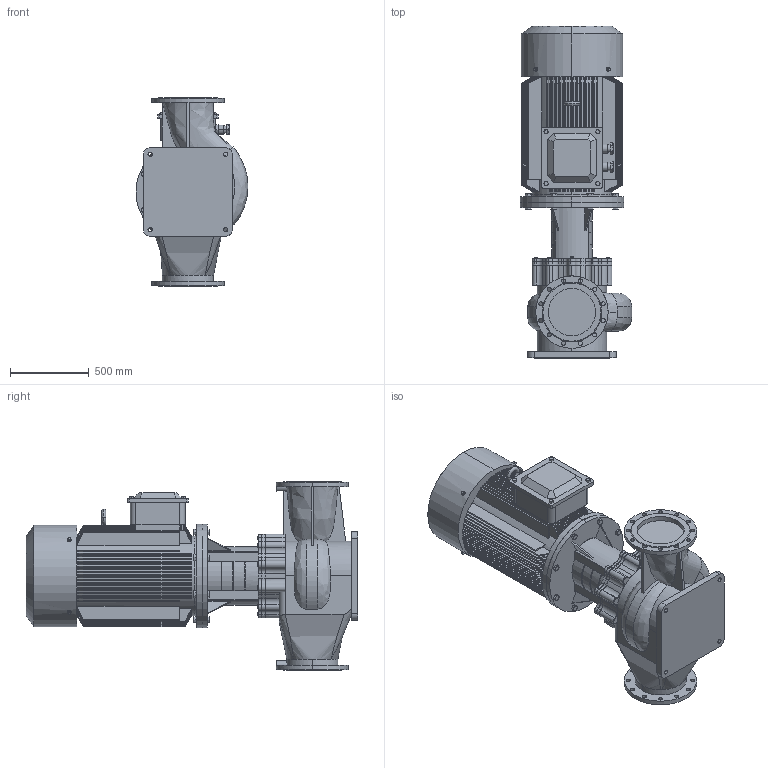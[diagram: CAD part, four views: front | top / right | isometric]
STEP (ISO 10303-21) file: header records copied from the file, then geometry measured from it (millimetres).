
FILE_DESCRIPTION (( 'STEP AP203' ), '1' );
FILE_NAME ('TD300-30G／4.STEP', '2026-09-07T03:39:35', ( '' ), ( '' ), 'SwSTEP 2.0', 'SolidWorks 2020', '' );
FILE_SCHEMA (( 'CONFIG_CONTROL_DESIGN' ));
Length unit declared in the file: millimetre
Products named in the file (1): TD300-30Gㄞ4
Bounding box: 711.43 x 2109 x 1200 mm (x, y, z)
Volume: 575974056.4 mm3; surface area: 15191187.7 mm2
Topology: 1 solids, 10 shells, 1879 faces, 4646 edges, 2902 vertices
Faces by surface type: plane 711, cone 574, cylinder 506, torus 48, bspline 40
Entity records: 79223 total; most frequent: CARTESIAN_POINT 35282, ORIENTED_EDGE 9292, DIRECTION 9066, EDGE_CURVE 4646, AXIS2_PLACEMENT_3D 3660, VERTEX_POINT 2902, EDGE_LOOP 2070, ADVANCED_FACE 1879
